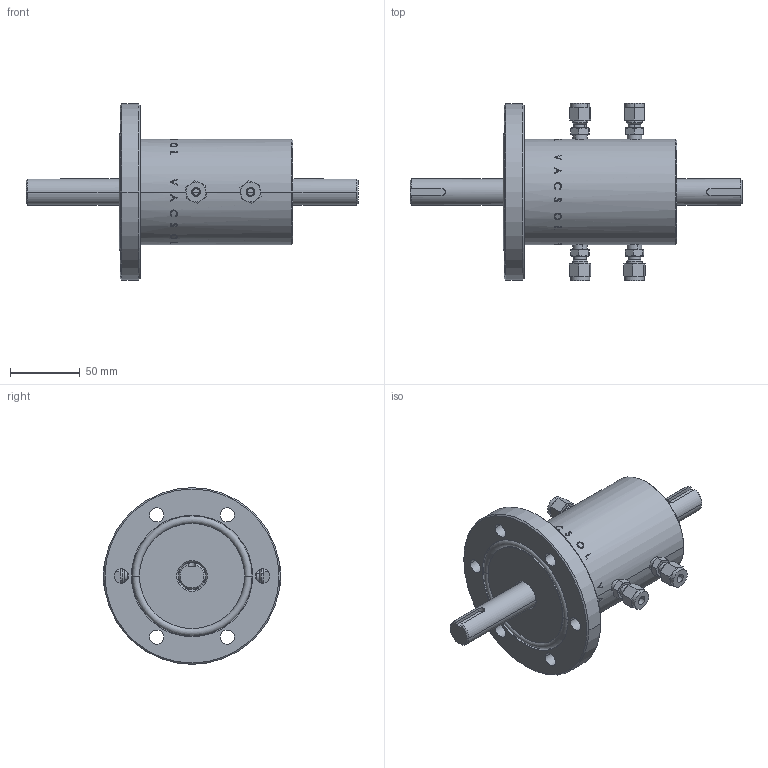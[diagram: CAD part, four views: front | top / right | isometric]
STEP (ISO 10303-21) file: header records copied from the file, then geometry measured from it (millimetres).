
FILE_DESCRIPTION (( 'STEP AP203' ), '1' );
FILE_NAME ('6308126.STEP', '2010-12-12T13:06:39', ( 'user' ), ( '' ), 'SwSTEP 2.0', 'SolidWorks 2007', '' );
FILE_SCHEMA (( 'CONFIG_CONTROL_DESIGN' ));
Products named in the file (3): 6308126; P6308126_??; SS_400_1_2_??
Assembly tree (5 placements, depth 2):
  6308126
    SS_400_1_2_??  x4
    P6308126_??
Bounding box: 238.7 x 127.8 x 127 mm (x, y, z)
Volume: 716242.9 mm3; surface area: 84470.9 mm2
Topology: 6 solids, 6 shells, 534 faces, 1277 edges, 800 vertices
Faces by surface type: bspline 177, cone 152, cylinder 109, plane 92, torus 4
Entity records: 28388 total; most frequent: CARTESIAN_POINT 21361, ORIENTED_EDGE 1714, EDGE_CURVE 857, DIRECTION 763, B_SPLINE_CURVE_WITH_KNOTS 597, VERTEX_POINT 554, EDGE_LOOP 391, ADVANCED_FACE 342
